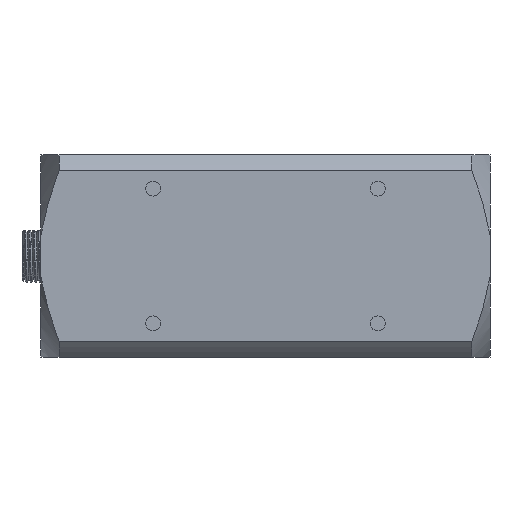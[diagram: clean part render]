
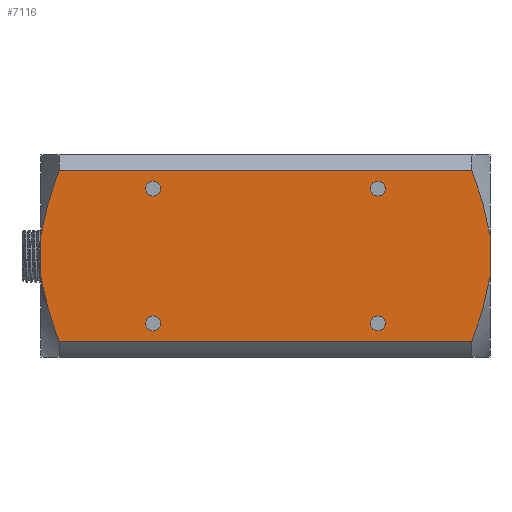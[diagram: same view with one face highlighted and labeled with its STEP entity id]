
A CAD part, front view. The second image highlights one B-rep face of the part: STEP entity #7116.
In plain terms, the highlighted planar face has unit normal (0, -1, 0).
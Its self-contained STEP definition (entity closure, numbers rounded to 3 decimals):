
#977=LINE('',#36308,#2977);
#979=LINE('',#36325,#2979);
#981=LINE('',#36340,#2981);
#983=LINE('',#36348,#2983);
#2977=VECTOR('',#29627,1.);
#2979=VECTOR('',#29641,1.);
#2981=VECTOR('',#29649,1.);
#2983=VECTOR('',#29659,1.);
#5516=FACE_BOUND('',#10148,.T.);
#5517=FACE_BOUND('',#10149,.T.);
#5518=FACE_BOUND('',#10150,.T.);
#5519=FACE_BOUND('',#10151,.T.);
#5520=FACE_BOUND('',#10152,.T.);
#6292=PLANE('',#27419);
#7116=ADVANCED_FACE('',(#5516,#5517,#5518,#5519,#5520),#6292,.T.);
#10148=EDGE_LOOP('',(#13126,#13127));
#10149=EDGE_LOOP('',(#13128,#13129));
#10150=EDGE_LOOP('',(#13130,#13131));
#10151=EDGE_LOOP('',(#13132,#13133));
#10152=EDGE_LOOP('',(#13134,#13135,#13136,#13137,#13138,#13139,#13140,#13141));
#12160=CIRCLE('',#27403,1.65);
#12161=CIRCLE('',#27405,1.65);
#12162=CIRCLE('',#27407,1.65);
#12163=CIRCLE('',#27409,1.65);
#12164=CIRCLE('',#27411,1.65);
#12165=CIRCLE('',#27413,1.65);
#12166=CIRCLE('',#27415,1.65);
#12167=CIRCLE('',#27417,1.65);
#13126=ORIENTED_EDGE('',*,*,#22800,.T.);
#13127=ORIENTED_EDGE('',*,*,#22798,.T.);
#13128=ORIENTED_EDGE('',*,*,#22796,.T.);
#13129=ORIENTED_EDGE('',*,*,#22794,.T.);
#13130=ORIENTED_EDGE('',*,*,#22792,.T.);
#13131=ORIENTED_EDGE('',*,*,#22790,.T.);
#13132=ORIENTED_EDGE('',*,*,#22788,.T.);
#13133=ORIENTED_EDGE('',*,*,#22786,.T.);
#13134=ORIENTED_EDGE('',*,*,#22781,.F.);
#13135=ORIENTED_EDGE('',*,*,#22801,.T.);
#13136=ORIENTED_EDGE('',*,*,#22764,.F.);
#13137=ORIENTED_EDGE('',*,*,#22762,.F.);
#13138=ORIENTED_EDGE('',*,*,#22771,.T.);
#13139=ORIENTED_EDGE('',*,*,#22772,.F.);
#13140=ORIENTED_EDGE('',*,*,#22776,.F.);
#13141=ORIENTED_EDGE('',*,*,#22726,.T.);
#20270=VERTEX_POINT('',#36193);
#20271=VERTEX_POINT('',#36194);
#20302=VERTEX_POINT('',#36300);
#20303=VERTEX_POINT('',#36305);
#20304=VERTEX_POINT('',#36309);
#20308=VERTEX_POINT('',#36324);
#20309=VERTEX_POINT('',#36331);
#20312=VERTEX_POINT('',#36347);
#20314=VERTEX_POINT('',#36360);
#20315=VERTEX_POINT('',#36362);
#20316=VERTEX_POINT('',#36368);
#20317=VERTEX_POINT('',#36370);
#20318=VERTEX_POINT('',#36376);
#20319=VERTEX_POINT('',#36378);
#20320=VERTEX_POINT('',#36384);
#20321=VERTEX_POINT('',#36386);
#22726=EDGE_CURVE('',#20270,#20271,#26360,.T.);
#22762=EDGE_CURVE('',#20302,#20303,#26370,.T.);
#22764=EDGE_CURVE('',#20303,#20304,#977,.T.);
#22771=EDGE_CURVE('',#20302,#20308,#979,.T.);
#22772=EDGE_CURVE('',#20309,#20308,#26372,.T.);
#22776=EDGE_CURVE('',#20270,#20309,#981,.T.);
#22781=EDGE_CURVE('',#20312,#20271,#983,.T.);
#22786=EDGE_CURVE('',#20315,#20314,#12160,.T.);
#22788=EDGE_CURVE('',#20314,#20315,#12161,.T.);
#22790=EDGE_CURVE('',#20317,#20316,#12162,.T.);
#22792=EDGE_CURVE('',#20316,#20317,#12163,.T.);
#22794=EDGE_CURVE('',#20319,#20318,#12164,.T.);
#22796=EDGE_CURVE('',#20318,#20319,#12165,.T.);
#22798=EDGE_CURVE('',#20321,#20320,#12166,.T.);
#22800=EDGE_CURVE('',#20320,#20321,#12167,.T.);
#22801=EDGE_CURVE('',#20312,#20304,#26375,.T.);
#26360=B_SPLINE_CURVE_WITH_KNOTS('',3,(#36189,#36190,#36191,#36192),
 .UNSPECIFIED.,.F.,.F.,(4,4),(0.,1.),.UNSPECIFIED.);
#26370=B_SPLINE_CURVE_WITH_KNOTS('',3,(#36301,#36302,#36303,#36304),
 .UNSPECIFIED.,.F.,.F.,(4,4),(0.,1.),.UNSPECIFIED.);
#26372=B_SPLINE_CURVE_WITH_KNOTS('',3,(#36327,#36328,#36329,#36330),
 .UNSPECIFIED.,.F.,.F.,(4,4),(0.,1.),.UNSPECIFIED.);
#26375=B_SPLINE_CURVE_WITH_KNOTS('',3,(#36391,#36392,#36393,#36394),
 .UNSPECIFIED.,.F.,.F.,(4,4),(0.,1.),.UNSPECIFIED.);
#27403=AXIS2_PLACEMENT_3D('',#36361,#29670,#29671);
#27405=AXIS2_PLACEMENT_3D('',#36365,#29675,#29676);
#27407=AXIS2_PLACEMENT_3D('',#36369,#29680,#29681);
#27409=AXIS2_PLACEMENT_3D('',#36373,#29685,#29686);
#27411=AXIS2_PLACEMENT_3D('',#36377,#29690,#29691);
#27413=AXIS2_PLACEMENT_3D('',#36381,#29695,#29696);
#27415=AXIS2_PLACEMENT_3D('',#36385,#29700,#29701);
#27417=AXIS2_PLACEMENT_3D('',#36389,#29705,#29706);
#27419=AXIS2_PLACEMENT_3D('',#36395,#29709,#29710);
#29627=DIRECTION('',(1.,0.,0.));
#29641=DIRECTION('',(0.,0.,-1.));
#29649=DIRECTION('',(-1.,0.,0.));
#29659=DIRECTION('',(0.,0.,-1.));
#29670=DIRECTION('',(0.,1.,0.));
#29671=DIRECTION('',(0.,0.,1.));
#29675=DIRECTION('',(0.,1.,0.));
#29676=DIRECTION('',(0.,0.,-1.));
#29680=DIRECTION('',(0.,1.,0.));
#29681=DIRECTION('',(0.,0.,1.));
#29685=DIRECTION('',(0.,1.,0.));
#29686=DIRECTION('',(0.,0.,-1.));
#29690=DIRECTION('',(0.,1.,0.));
#29691=DIRECTION('',(0.,0.,1.));
#29695=DIRECTION('',(0.,1.,0.));
#29696=DIRECTION('',(0.,0.,-1.));
#29700=DIRECTION('',(0.,1.,0.));
#29701=DIRECTION('',(0.,0.,1.));
#29705=DIRECTION('',(0.,1.,0.));
#29706=DIRECTION('',(0.,0.,-1.));
#29709=DIRECTION('',(0.,-1.,0.));
#29710=DIRECTION('',(0.,0.,1.));
#36189=CARTESIAN_POINT('',(90.959,-39.49,-438.541));
#36190=CARTESIAN_POINT('',(92.723,-39.49,-433.858));
#36191=CARTESIAN_POINT('',(94.214,-39.49,-429.099));
#36192=CARTESIAN_POINT('',(95.,-39.49,-424.141));
#36193=CARTESIAN_POINT('',(90.959,-39.49,-438.541));
#36194=CARTESIAN_POINT('',(95.,-39.49,-424.141));
#36300=CARTESIAN_POINT('',(-5.,-39.49,-414.859));
#36301=CARTESIAN_POINT('',(-5.,-39.49,-414.859));
#36302=CARTESIAN_POINT('',(-4.214,-39.49,-409.901));
#36303=CARTESIAN_POINT('',(-2.723,-39.49,-405.142));
#36304=CARTESIAN_POINT('',(-0.959,-39.49,-400.459));
#36305=CARTESIAN_POINT('',(-0.959,-39.49,-400.459));
#36308=CARTESIAN_POINT('',(-5.,-39.49,-400.459));
#36309=CARTESIAN_POINT('',(90.959,-39.49,-400.459));
#36324=CARTESIAN_POINT('',(-5.,-39.49,-424.141));
#36325=CARTESIAN_POINT('',(-5.,-39.49,-397.959));
#36327=CARTESIAN_POINT('',(-0.959,-39.49,-438.541));
#36328=CARTESIAN_POINT('',(-2.723,-39.49,-433.858));
#36329=CARTESIAN_POINT('',(-4.214,-39.49,-429.099));
#36330=CARTESIAN_POINT('',(-5.,-39.49,-424.141));
#36331=CARTESIAN_POINT('',(-0.959,-39.49,-438.541));
#36340=CARTESIAN_POINT('',(95.,-39.49,-438.541));
#36347=CARTESIAN_POINT('',(95.,-39.49,-414.859));
#36348=CARTESIAN_POINT('',(95.,-39.49,-397.959));
#36360=CARTESIAN_POINT('',(20.,-39.49,-406.15));
#36361=CARTESIAN_POINT('',(20.,-39.49,-404.5));
#36362=CARTESIAN_POINT('',(20.,-39.49,-402.85));
#36365=CARTESIAN_POINT('',(20.,-39.49,-404.5));
#36368=CARTESIAN_POINT('',(70.,-39.49,-436.15));
#36369=CARTESIAN_POINT('',(70.,-39.49,-434.5));
#36370=CARTESIAN_POINT('',(70.,-39.49,-432.85));
#36373=CARTESIAN_POINT('',(70.,-39.49,-434.5));
#36376=CARTESIAN_POINT('',(20.,-39.49,-436.15));
#36377=CARTESIAN_POINT('',(20.,-39.49,-434.5));
#36378=CARTESIAN_POINT('',(20.,-39.49,-432.85));
#36381=CARTESIAN_POINT('',(20.,-39.49,-434.5));
#36384=CARTESIAN_POINT('',(70.,-39.49,-406.15));
#36385=CARTESIAN_POINT('',(70.,-39.49,-404.5));
#36386=CARTESIAN_POINT('',(70.,-39.49,-402.85));
#36389=CARTESIAN_POINT('',(70.,-39.49,-404.5));
#36391=CARTESIAN_POINT('',(95.,-39.49,-414.859));
#36392=CARTESIAN_POINT('',(94.214,-39.49,-409.901));
#36393=CARTESIAN_POINT('',(92.723,-39.49,-405.142));
#36394=CARTESIAN_POINT('',(90.959,-39.49,-400.459));
#36395=CARTESIAN_POINT('',(95.,-39.49,-444.5));
